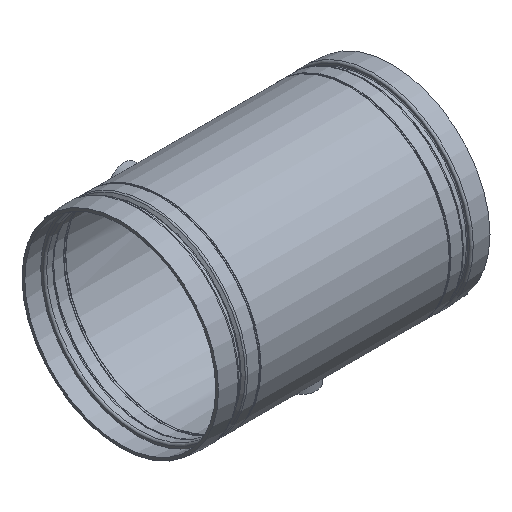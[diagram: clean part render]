
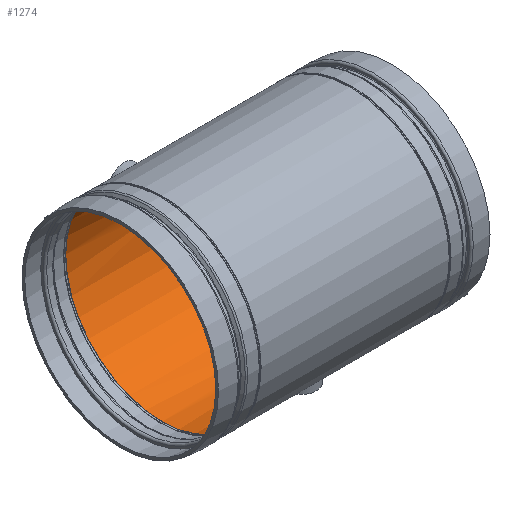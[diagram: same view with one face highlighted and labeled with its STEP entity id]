
A CAD part, isometric view. The second image highlights one B-rep face of the part: STEP entity #1274.
In plain terms, the highlighted cylindrical face has radius 106.49 mm (diameter 212.979 mm), a full revolution.
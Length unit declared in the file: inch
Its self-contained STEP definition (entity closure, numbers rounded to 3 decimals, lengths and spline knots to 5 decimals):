
#81=FACE_BOUND('',#171,.T.);
#82=FACE_BOUND('',#172,.T.);
#108=FACE_OUTER_BOUND('',#170,.T.);
#170=EDGE_LOOP('',(#817,#818,#819,#820,#821,#822,#823,#824));
#171=EDGE_LOOP('',(#825,#826));
#172=EDGE_LOOP('',(#827,#828));
#237=B_SPLINE_CURVE_WITH_KNOTS('',3,(#2093,#2094,#2095,#2096,#2097,#2098,
#2099,#2100,#2101,#2102),.UNSPECIFIED.,.F.,.F.,(4,2,2,2,4),(0.,0.40214,
0.80428,1.20642,1.60856),.UNSPECIFIED.);
#238=B_SPLINE_CURVE_WITH_KNOTS('',3,(#2103,#2104,#2105,#2106,#2107,#2108,
#2109,#2110,#2111,#2112,#2113,#2114,#2115,#2116,#2117,#2118,#2119,#2120,
#2121,#2122,#2123,#2124,#2125,#2126,#2127,#2128),.UNSPECIFIED.,.F.,.F.,
(4,2,2,2,2,2,2,2,2,2,2,2,4),(1.60856,2.01069,2.41283,
2.81497,3.21711,3.61925,4.02139,4.42353,
4.82567,5.22781,5.62994,6.03208,6.43422),
 .UNSPECIFIED.);
#241=B_SPLINE_CURVE_WITH_KNOTS('',3,(#2227,#2228,#2229,#2230,#2231,#2232,
#2233,#2234,#2235,#2236,#2237,#2238,#2239,#2240,#2241,#2242,#2243,#2244,
#2245,#2246,#2247,#2248,#2249,#2250,#2251,#2252),.UNSPECIFIED.,.F.,.F.,
(4,2,2,2,2,2,2,2,2,2,2,2,4),(0.,0.40214,0.80428,1.20642,
1.60856,2.01069,2.41283,2.81497,3.21711,
3.61925,4.02139,4.42353,4.82567),
 .UNSPECIFIED.);
#242=B_SPLINE_CURVE_WITH_KNOTS('',3,(#2253,#2254,#2255,#2256,#2257,#2258,
#2259,#2260,#2261,#2262),.UNSPECIFIED.,.F.,.F.,(4,2,2,2,4),(4.82567,
5.22781,5.62994,6.03208,6.43422),
 .UNSPECIFIED.);
#248=LINE('',#2218,#272);
#272=VECTOR('',#1615,4.1925);
#297=CIRCLE('',#1359,4.1925);
#298=CIRCLE('',#1360,4.1925);
#299=CIRCLE('',#1361,4.1925);
#300=CIRCLE('',#1362,4.1925);
#301=CIRCLE('',#1363,4.1925);
#302=CIRCLE('',#1364,4.1925);
#458=VERTEX_POINT('',#2090);
#459=VERTEX_POINT('',#2092);
#465=VERTEX_POINT('',#2212);
#466=VERTEX_POINT('',#2213);
#467=VERTEX_POINT('',#2215);
#468=VERTEX_POINT('',#2217);
#469=VERTEX_POINT('',#2219);
#470=VERTEX_POINT('',#2221);
#471=VERTEX_POINT('',#2225);
#472=VERTEX_POINT('',#2226);
#605=EDGE_CURVE('',#459,#458,#237,.T.);
#606=EDGE_CURVE('',#458,#459,#238,.T.);
#614=EDGE_CURVE('',#465,#466,#297,.T.);
#615=EDGE_CURVE('',#466,#467,#298,.T.);
#616=EDGE_CURVE('',#467,#468,#248,.T.);
#617=EDGE_CURVE('',#469,#468,#299,.T.);
#618=EDGE_CURVE('',#470,#469,#300,.T.);
#619=EDGE_CURVE('',#468,#470,#301,.T.);
#620=EDGE_CURVE('',#467,#465,#302,.T.);
#621=EDGE_CURVE('',#471,#472,#241,.T.);
#622=EDGE_CURVE('',#472,#471,#242,.T.);
#817=ORIENTED_EDGE('',*,*,#614,.T.);
#818=ORIENTED_EDGE('',*,*,#615,.T.);
#819=ORIENTED_EDGE('',*,*,#616,.T.);
#820=ORIENTED_EDGE('',*,*,#617,.F.);
#821=ORIENTED_EDGE('',*,*,#618,.F.);
#822=ORIENTED_EDGE('',*,*,#619,.F.);
#823=ORIENTED_EDGE('',*,*,#616,.F.);
#824=ORIENTED_EDGE('',*,*,#620,.T.);
#825=ORIENTED_EDGE('',*,*,#605,.T.);
#826=ORIENTED_EDGE('',*,*,#606,.T.);
#827=ORIENTED_EDGE('',*,*,#621,.T.);
#828=ORIENTED_EDGE('',*,*,#622,.T.);
#1194=CYLINDRICAL_SURFACE('',#1358,4.1925);
#1274=ADVANCED_FACE('',(#108,#81,#82),#1194,.F.);
#1358=AXIS2_PLACEMENT_3D('',#2211,#1609,#1610);
#1359=AXIS2_PLACEMENT_3D('',#2214,#1611,#1612);
#1360=AXIS2_PLACEMENT_3D('',#2216,#1613,#1614);
#1361=AXIS2_PLACEMENT_3D('',#2220,#1616,#1617);
#1362=AXIS2_PLACEMENT_3D('',#2222,#1618,#1619);
#1363=AXIS2_PLACEMENT_3D('',#2223,#1620,#1621);
#1364=AXIS2_PLACEMENT_3D('',#2224,#1622,#1623);
#1609=DIRECTION('center_axis',(1.,0.,0.));
#1610=DIRECTION('ref_axis',(0.,1.,0.));
#1611=DIRECTION('center_axis',(1.,0.,0.));
#1612=DIRECTION('ref_axis',(0.,0.,-1.));
#1613=DIRECTION('center_axis',(1.,0.,0.));
#1614=DIRECTION('ref_axis',(0.,0.,-1.));
#1615=DIRECTION('',(-1.,0.,0.));
#1616=DIRECTION('center_axis',(1.,0.,0.));
#1617=DIRECTION('ref_axis',(0.,0.,-1.));
#1618=DIRECTION('center_axis',(1.,0.,0.));
#1619=DIRECTION('ref_axis',(0.,0.,-1.));
#1620=DIRECTION('center_axis',(1.,0.,0.));
#1621=DIRECTION('ref_axis',(0.,0.,-1.));
#1622=DIRECTION('center_axis',(1.,0.,0.));
#1623=DIRECTION('ref_axis',(0.,0.,-1.));
#2090=CARTESIAN_POINT('',(1.54,0.,-4.1925));
#2092=CARTESIAN_POINT('',(1.96,-0.42,-4.17141));
#2093=CARTESIAN_POINT('Ctrl Pts',(1.96,-0.42,-4.17141));
#2094=CARTESIAN_POINT('Ctrl Pts',(1.90723,-0.42,-4.17141));
#2095=CARTESIAN_POINT('Ctrl Pts',(1.85096,-0.40945,-4.17251));
#2096=CARTESIAN_POINT('Ctrl Pts',(1.74749,-0.36657,-4.1765));
#2097=CARTESIAN_POINT('Ctrl Pts',(1.70029,-0.33425,-4.17932));
#2098=CARTESIAN_POINT('Ctrl Pts',(1.62575,-0.25971,-4.18461));
#2099=CARTESIAN_POINT('Ctrl Pts',(1.59343,-0.21251,-4.18743));
#2100=CARTESIAN_POINT('Ctrl Pts',(1.55055,-0.10904,-4.1914));
#2101=CARTESIAN_POINT('Ctrl Pts',(1.54,-0.05277,-4.1925));
#2102=CARTESIAN_POINT('Ctrl Pts',(1.54,0.,-4.1925));
#2103=CARTESIAN_POINT('Ctrl Pts',(1.54,0.,-4.1925));
#2104=CARTESIAN_POINT('Ctrl Pts',(1.54,0.05277,-4.1925));
#2105=CARTESIAN_POINT('Ctrl Pts',(1.55055,0.10904,-4.1914));
#2106=CARTESIAN_POINT('Ctrl Pts',(1.59343,0.21251,-4.18743));
#2107=CARTESIAN_POINT('Ctrl Pts',(1.62575,0.25971,-4.18461));
#2108=CARTESIAN_POINT('Ctrl Pts',(1.70029,0.33425,-4.17932));
#2109=CARTESIAN_POINT('Ctrl Pts',(1.74749,0.36657,-4.1765));
#2110=CARTESIAN_POINT('Ctrl Pts',(1.85096,0.40945,-4.17251));
#2111=CARTESIAN_POINT('Ctrl Pts',(1.90723,0.42,-4.17141));
#2112=CARTESIAN_POINT('Ctrl Pts',(2.01277,0.42,-4.17141));
#2113=CARTESIAN_POINT('Ctrl Pts',(2.06904,0.40945,-4.17251));
#2114=CARTESIAN_POINT('Ctrl Pts',(2.17251,0.36657,-4.1765));
#2115=CARTESIAN_POINT('Ctrl Pts',(2.21971,0.33425,-4.17932));
#2116=CARTESIAN_POINT('Ctrl Pts',(2.29425,0.25971,-4.18461));
#2117=CARTESIAN_POINT('Ctrl Pts',(2.32657,0.21251,-4.18743));
#2118=CARTESIAN_POINT('Ctrl Pts',(2.36945,0.10904,-4.1914));
#2119=CARTESIAN_POINT('Ctrl Pts',(2.38,0.05277,-4.1925));
#2120=CARTESIAN_POINT('Ctrl Pts',(2.38,-0.05277,-4.1925));
#2121=CARTESIAN_POINT('Ctrl Pts',(2.36945,-0.10904,-4.1914));
#2122=CARTESIAN_POINT('Ctrl Pts',(2.32657,-0.21251,-4.18743));
#2123=CARTESIAN_POINT('Ctrl Pts',(2.29425,-0.25971,-4.18461));
#2124=CARTESIAN_POINT('Ctrl Pts',(2.21971,-0.33425,-4.17932));
#2125=CARTESIAN_POINT('Ctrl Pts',(2.17251,-0.36657,-4.1765));
#2126=CARTESIAN_POINT('Ctrl Pts',(2.06904,-0.40945,-4.17251));
#2127=CARTESIAN_POINT('Ctrl Pts',(2.01277,-0.42,-4.17141));
#2128=CARTESIAN_POINT('Ctrl Pts',(1.96,-0.42,-4.17141));
#2211=CARTESIAN_POINT('Origin',(-2.03963,0.,
0.));
#2212=CARTESIAN_POINT('',(4.07927,4.1925,0.));
#2213=CARTESIAN_POINT('',(4.07927,0.,4.1925));
#2214=CARTESIAN_POINT('Origin',(4.07927,0.,0.));
#2215=CARTESIAN_POINT('',(4.07927,-4.1925,0.));
#2216=CARTESIAN_POINT('Origin',(4.07927,0.,0.));
#2217=CARTESIAN_POINT('',(-4.07927,-4.1925,0.));
#2218=CARTESIAN_POINT('',(-2.03963,-4.1925,0.));
#2219=CARTESIAN_POINT('',(-4.07927,0.,4.1925));
#2220=CARTESIAN_POINT('Origin',(-4.07927,0.,
0.));
#2221=CARTESIAN_POINT('',(-4.07927,4.1925,0.));
#2222=CARTESIAN_POINT('Origin',(-4.07927,0.,
0.));
#2223=CARTESIAN_POINT('Origin',(-4.07927,0.,
0.));
#2224=CARTESIAN_POINT('Origin',(4.07927,0.,0.));
#2225=CARTESIAN_POINT('',(-0.01,4.17141,-0.42));
#2226=CARTESIAN_POINT('',(0.41,4.1925,0.));
#2227=CARTESIAN_POINT('Ctrl Pts',(-0.01,4.17141,
-0.42));
#2228=CARTESIAN_POINT('Ctrl Pts',(-0.06277,4.17141,
-0.42));
#2229=CARTESIAN_POINT('Ctrl Pts',(-0.11904,4.17251,-0.40945));
#2230=CARTESIAN_POINT('Ctrl Pts',(-0.22251,4.1765,-0.36657));
#2231=CARTESIAN_POINT('Ctrl Pts',(-0.26971,4.17932,-0.33425));
#2232=CARTESIAN_POINT('Ctrl Pts',(-0.34425,4.18461,-0.25971));
#2233=CARTESIAN_POINT('Ctrl Pts',(-0.37657,4.18743,-0.21251));
#2234=CARTESIAN_POINT('Ctrl Pts',(-0.41945,4.1914,-0.10904));
#2235=CARTESIAN_POINT('Ctrl Pts',(-0.43,4.1925,-0.05277));
#2236=CARTESIAN_POINT('Ctrl Pts',(-0.43,4.1925,0.05277));
#2237=CARTESIAN_POINT('Ctrl Pts',(-0.41945,4.1914,0.10904));
#2238=CARTESIAN_POINT('Ctrl Pts',(-0.37657,4.18743,0.21251));
#2239=CARTESIAN_POINT('Ctrl Pts',(-0.34425,4.18461,0.25971));
#2240=CARTESIAN_POINT('Ctrl Pts',(-0.26971,4.17932,0.33425));
#2241=CARTESIAN_POINT('Ctrl Pts',(-0.22251,4.1765,0.36657));
#2242=CARTESIAN_POINT('Ctrl Pts',(-0.11904,4.17251,0.40945));
#2243=CARTESIAN_POINT('Ctrl Pts',(-0.06277,4.17141,
0.42));
#2244=CARTESIAN_POINT('Ctrl Pts',(0.04277,4.17141,0.42));
#2245=CARTESIAN_POINT('Ctrl Pts',(0.09904,4.17251,0.40945));
#2246=CARTESIAN_POINT('Ctrl Pts',(0.20251,4.1765,0.36657));
#2247=CARTESIAN_POINT('Ctrl Pts',(0.24971,4.17932,0.33425));
#2248=CARTESIAN_POINT('Ctrl Pts',(0.32425,4.18461,0.25971));
#2249=CARTESIAN_POINT('Ctrl Pts',(0.35657,4.18743,0.21251));
#2250=CARTESIAN_POINT('Ctrl Pts',(0.39945,4.1914,0.10904));
#2251=CARTESIAN_POINT('Ctrl Pts',(0.41,4.1925,0.05277));
#2252=CARTESIAN_POINT('Ctrl Pts',(0.41,4.1925,0.));
#2253=CARTESIAN_POINT('Ctrl Pts',(0.41,4.1925,0.));
#2254=CARTESIAN_POINT('Ctrl Pts',(0.41,4.1925,-0.05277));
#2255=CARTESIAN_POINT('Ctrl Pts',(0.39945,4.1914,-0.10904));
#2256=CARTESIAN_POINT('Ctrl Pts',(0.35657,4.18743,-0.21251));
#2257=CARTESIAN_POINT('Ctrl Pts',(0.32425,4.18461,-0.25971));
#2258=CARTESIAN_POINT('Ctrl Pts',(0.24971,4.17932,-0.33425));
#2259=CARTESIAN_POINT('Ctrl Pts',(0.20251,4.1765,-0.36657));
#2260=CARTESIAN_POINT('Ctrl Pts',(0.09904,4.17251,-0.40945));
#2261=CARTESIAN_POINT('Ctrl Pts',(0.04277,4.17141,-0.42));
#2262=CARTESIAN_POINT('Ctrl Pts',(-0.01,4.17141,
-0.42));
